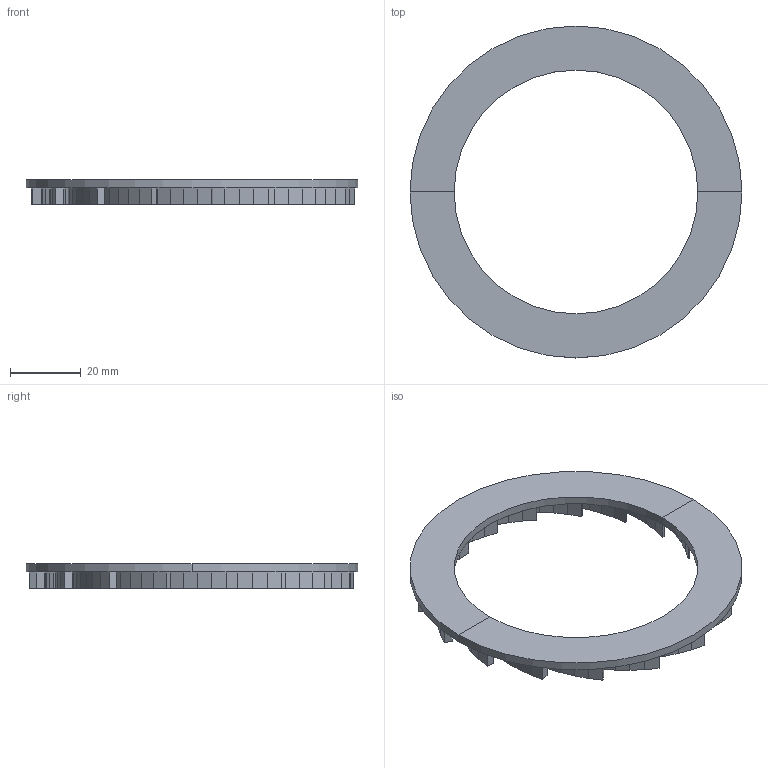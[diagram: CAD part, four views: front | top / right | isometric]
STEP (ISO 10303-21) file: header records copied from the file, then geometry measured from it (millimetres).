
FILE_DESCRIPTION(('BendCAD AP242 PMI export'),'2;1');
FILE_NAME('bendcad.step','',('BendCAD'),('BendCAD'),'BendCAD','BendCAD','');
FILE_SCHEMA(('AP242_MANAGED_MODEL_BASED_3D_ENGINEERING_MIM_LF'));
Length unit declared in the file: millimetre
Products named in the file (1): BENDCAD
Bounding box: 94 x 94 x 7 mm (x, y, z)
Volume: 11260.9 mm3; surface area: 12940.3 mm2
Topology: 1 solids, 1 shells, 331 faces, 949 edges, 630 vertices
Faces by surface type: bspline 306, plane 21, cylinder 4
Entity records: 13346 total; most frequent: CARTESIAN_POINT 5560, ORIENTED_EDGE 1898, DIRECTION 1009, EDGE_CURVE 949, VECTOR 941, LINE 941, VERTEX_POINT 630, EDGE_LOOP 343
